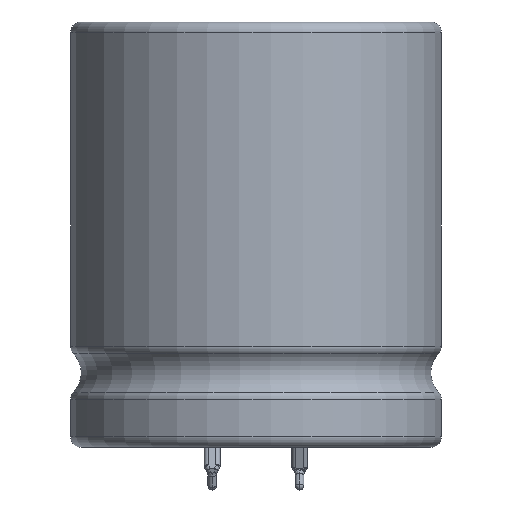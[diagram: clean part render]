
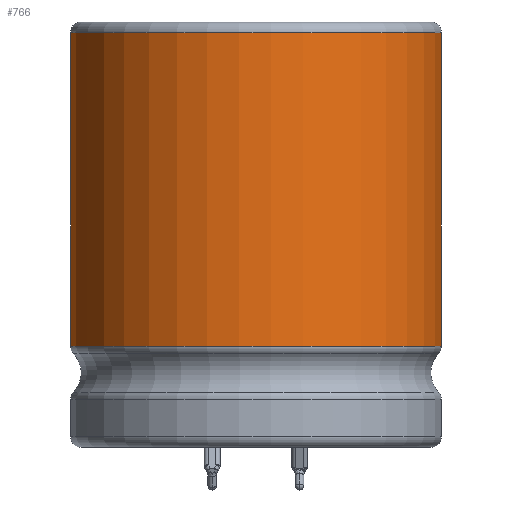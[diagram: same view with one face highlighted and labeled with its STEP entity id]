
A CAD part, left-side view. The second image highlights one B-rep face of the part: STEP entity #766.
In plain terms, the highlighted cylindrical face has radius 17.5 mm (diameter 35 mm), a partial arc.
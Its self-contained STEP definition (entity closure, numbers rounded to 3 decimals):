
#766=ADVANCED_FACE('',(#1050),#974,.T.);
#974=CYLINDRICAL_SURFACE('',#3966,17.5);
#1050=FACE_OUTER_BOUND('',#1245,.T.);
#1245=EDGE_LOOP('',(#1975,#1976,#1977,#1978));
#1467=LINE('',#5532,#1721);
#1468=LINE('',#5536,#1722);
#1721=VECTOR('',#4404,1.);
#1722=VECTOR('',#4407,1.);
#1975=ORIENTED_EDGE('',*,*,#3273,.F.);
#1976=ORIENTED_EDGE('',*,*,#3274,.F.);
#1977=ORIENTED_EDGE('',*,*,#3275,.T.);
#1978=ORIENTED_EDGE('',*,*,#3276,.T.);
#2963=VERTEX_POINT('',#5530);
#2964=VERTEX_POINT('',#5531);
#2965=VERTEX_POINT('',#5533);
#2966=VERTEX_POINT('',#5535);
#3273=EDGE_CURVE('',#2963,#2964,#3767,.T.);
#3274=EDGE_CURVE('',#2965,#2963,#1467,.T.);
#3275=EDGE_CURVE('',#2965,#2966,#3768,.T.);
#3276=EDGE_CURVE('',#2966,#2964,#1468,.T.);
#3767=CIRCLE('',#3964,17.5);
#3768=CIRCLE('',#3965,17.5);
#3964=AXIS2_PLACEMENT_3D('',#5529,#4402,#4403);
#3965=AXIS2_PLACEMENT_3D('',#5534,#4405,#4406);
#3966=AXIS2_PLACEMENT_3D('',#5537,#4408,#4409);
#4402=DIRECTION('',(0.,0.,-1.));
#4403=DIRECTION('',(-1.,0.,0.));
#4404=DIRECTION('',(0.,0.,-1.));
#4405=DIRECTION('',(0.,0.,-1.));
#4406=DIRECTION('',(-1.,0.,0.));
#4407=DIRECTION('',(0.,0.,-1.));
#4408=DIRECTION('',(0.,0.,-1.));
#4409=DIRECTION('',(-1.,0.,0.));
#5529=CARTESIAN_POINT('',(0.,0.,9.5));
#5530=CARTESIAN_POINT('',(7.118,-15.987,9.5));
#5531=CARTESIAN_POINT('',(15.987,-7.118,9.5));
#5532=CARTESIAN_POINT('',(7.118,-15.987,39.));
#5533=CARTESIAN_POINT('',(7.118,-15.987,39.));
#5534=CARTESIAN_POINT('',(0.,0.,39.));
#5535=CARTESIAN_POINT('',(15.987,-7.118,39.));
#5536=CARTESIAN_POINT('',(15.987,-7.118,39.));
#5537=CARTESIAN_POINT('',(0.,0.,0.));
